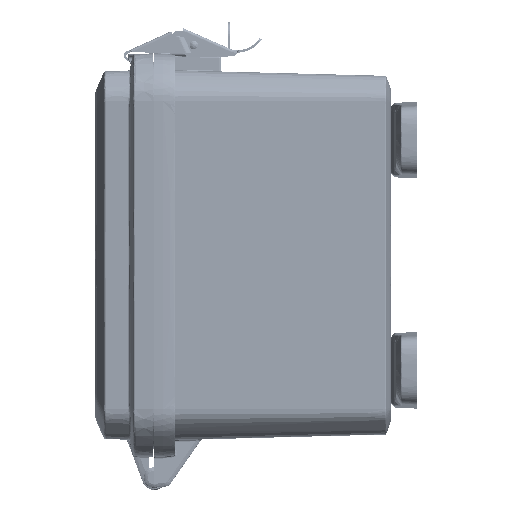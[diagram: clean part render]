
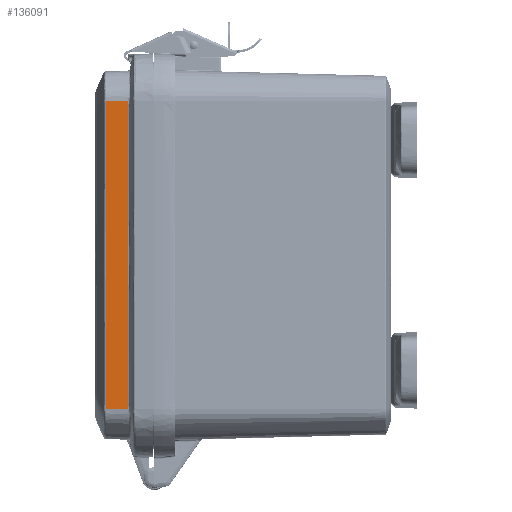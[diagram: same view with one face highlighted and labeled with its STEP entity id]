
A CAD part, left-side view. The second image highlights one B-rep face of the part: STEP entity #136091.
In plain terms, the highlighted planar face has unit normal (-0.999, 0.035, 0).
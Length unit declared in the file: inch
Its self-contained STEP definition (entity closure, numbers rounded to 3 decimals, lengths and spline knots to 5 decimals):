
#550 = CARTESIAN_POINT ( 'NONE',  ( -3.625, 0., 3.00844 ) ) ;
#973 = CARTESIAN_POINT ( 'NONE',  ( -3.5929, 0.9192, 0. ) ) ;
#4080 = EDGE_CURVE ( 'NONE', #114502, #23944, #17487, .T. ) ;
#5038 = CARTESIAN_POINT ( 'NONE',  ( -3.5929, 0.9192, 0. ) ) ;
#5466 = VERTEX_POINT ( 'NONE', #66440 ) ;
#6608 = EDGE_CURVE ( 'NONE', #23944, #24179, #19356, .T. ) ;
#6927 = CARTESIAN_POINT ( 'NONE',  ( -3.60805, 0.48528, -2.38176 ) ) ;
#7716 = CARTESIAN_POINT ( 'NONE',  ( -3.5929, 0.91934, -2.94577 ) ) ;
#7988 = CARTESIAN_POINT ( 'NONE',  ( -3.60804, 0.48557, -2.88318 ) ) ;
#12997 = CARTESIAN_POINT ( 'NONE',  ( -3.5929, 0.91934, 2.94577 ) ) ;
#15185 = CARTESIAN_POINT ( 'NONE',  ( -3.60805, 0.4853, 2.75774 ) ) ;
#16201 = CARTESIAN_POINT ( 'NONE',  ( -3.5929, 0.91921, 0.50141 ) ) ;
#17279 = CARTESIAN_POINT ( 'NONE',  ( -3.5929, 0.91918, 1.00281 ) ) ;
#17487 = B_SPLINE_CURVE_WITH_KNOTS ( 'NONE', 3,
 ( #65089, #149640, #131234, #12997, #196330, #181134, #130158, #164851, #162743, #32479, #198452, #17279, #16201, #973 ),
 .UNSPECIFIED., .F., .F.,
 ( 4, 2, 1, 1, 2, 2, 2, 4 ),
 ( 0., 0.00119, 0.00239, 0.00478, 0.00955, 0.0191, 0.03821, 0.07641 ),
 .UNSPECIFIED. ) ;
#19356 = B_SPLINE_CURVE_WITH_KNOTS ( 'NONE', 3,
 ( #56609, #72873, #57658, #89182, #55559, #188939, #121703, #157455, #91311, #187875, #7716, #155327, #139078, #205214 ),
 .UNSPECIFIED., .F., .F.,
 ( 4, 2, 2, 2, 1, 1, 2, 4 ),
 ( 0., 0.03821, 0.05731, 0.06686, 0.07164, 0.07403, 0.07522, 0.07641 ),
 .UNSPECIFIED. ) ;
#22183 = CARTESIAN_POINT ( 'NONE',  ( -3.60804, 0.48555, -2.00569 ) ) ;
#23944 = VERTEX_POINT ( 'NONE', #5038 ) ;
#24179 = VERTEX_POINT ( 'NONE', #110235 ) ;
#24314 = CARTESIAN_POINT ( 'NONE',  ( -3.60805, 0.48546, -1.75498 ) ) ;
#30012 = EDGE_CURVE ( 'NONE', #24179, #187665, #204359, .T. ) ;
#31331 = ORIENTED_EDGE ( 'NONE', *, *, #4080, .T. ) ;
#32479 = CARTESIAN_POINT ( 'NONE',  ( -3.5929, 0.91933, 2.00563 ) ) ;
#37031 = ORIENTED_EDGE ( 'NONE', *, *, #128762, .T. ) ;
#37545 = VECTOR ( 'NONE', #118705, 39.37008 ) ;
#38449 = CARTESIAN_POINT ( 'NONE',  ( -3.60804, 0.48557, -2.89885 ) ) ;
#39512 = CARTESIAN_POINT ( 'NONE',  ( -3.60819, 0.48144, -3.00844 ) ) ;
#49650 = FACE_OUTER_BOUND ( 'NONE', #73900, .T. ) ;
#55559 = CARTESIAN_POINT ( 'NONE',  ( -3.5929, 0.91933, -2.00563 ) ) ;
#56609 = CARTESIAN_POINT ( 'NONE',  ( -3.5929, 0.9192, 0. ) ) ;
#57658 = CARTESIAN_POINT ( 'NONE',  ( -3.5929, 0.91918, -1.00281 ) ) ;
#60091 = CARTESIAN_POINT ( 'NONE',  ( -3.60805, 0.4854, 0. ) ) ;
#61171 = CARTESIAN_POINT ( 'NONE',  ( -3.60805, 0.48541, -0.50142 ) ) ;
#65089 = CARTESIAN_POINT ( 'NONE',  ( -3.59291, 0.91908, 3.00844 ) ) ;
#65149 = CARTESIAN_POINT ( 'NONE',  ( -3.60805, 0.48545, 1.75493 ) ) ;
#66440 = CARTESIAN_POINT ( 'NONE',  ( -3.60819, 0.48144, 3.00844 ) ) ;
#68316 = CARTESIAN_POINT ( 'NONE',  ( -3.60805, 0.4854, 0. ) ) ;
#72873 = CARTESIAN_POINT ( 'NONE',  ( -3.5929, 0.91921, -0.50141 ) ) ;
#73900 = EDGE_LOOP ( 'NONE', ( #31331, #110243, #168956, #37031, #90483, #214367 ) ) ;
#86496 = PLANE ( 'NONE',  #115820 ) ;
#87552 = DIRECTION ( 'NONE',  ( -0.035, -0.999, 0. ) ) ;
#88071 = B_SPLINE_CURVE_WITH_KNOTS ( 'NONE', 3,
 ( #68316, #180134, #97680, #65149, #163857, #184412, #200672, #168110, #15185, #147575, #118225, #213745, #114995, #116064, #99799, #181194 ),
 .UNSPECIFIED., .F., .F.,
 ( 4, 2, 2, 2, 2, 2, 2, 4 ),
 ( 0., 0.03821, 0.05731, 0.06686, 0.07164, 0.07283, 0.07403, 0.07641 ),
 .UNSPECIFIED. ) ;
#89182 = CARTESIAN_POINT ( 'NONE',  ( -3.5929, 0.91927, -1.75492 ) ) ;
#89461 = CARTESIAN_POINT ( 'NONE',  ( -3.60805, 0.48549, -2.85184 ) ) ;
#90483 = ORIENTED_EDGE ( 'NONE', *, *, #162811, .T. ) ;
#91311 = CARTESIAN_POINT ( 'NONE',  ( -3.5929, 0.91923, -2.78908 ) ) ;
#97680 = CARTESIAN_POINT ( 'NONE',  ( -3.60805, 0.48531, 1.00282 ) ) ;
#99799 = CARTESIAN_POINT ( 'NONE',  ( -3.60812, 0.48344, 2.97711 ) ) ;
#101650 = DIRECTION ( 'NONE',  ( -0.999, 0.035, 0. ) ) ;
#104576 = VERTEX_POINT ( 'NONE', #160887 ) ;
#104625 = CARTESIAN_POINT ( 'NONE',  ( -3.60806, 0.48524, -2.69514 ) ) ;
#105823 = CARTESIAN_POINT ( 'NONE',  ( -3.59291, 0.91908, 3.00844 ) ) ;
#110235 = CARTESIAN_POINT ( 'NONE',  ( -3.59291, 0.91908, -3.00844 ) ) ;
#110243 = ORIENTED_EDGE ( 'NONE', *, *, #6608, .T. ) ;
#114502 = VERTEX_POINT ( 'NONE', #105823 ) ;
#114995 = CARTESIAN_POINT ( 'NONE',  ( -3.60804, 0.48558, 2.89876 ) ) ;
#115820 = AXIS2_PLACEMENT_3D ( 'NONE', #133145, #101650, #87552 ) ;
#116064 = CARTESIAN_POINT ( 'NONE',  ( -3.60807, 0.48478, 2.94577 ) ) ;
#118225 = CARTESIAN_POINT ( 'NONE',  ( -3.60805, 0.48549, 2.85176 ) ) ;
#118705 = DIRECTION ( 'NONE',  ( -0.035, -0.999, 0. ) ) ;
#120038 = VECTOR ( 'NONE', #195896, 39.37008 ) ;
#120501 = EDGE_CURVE ( 'NONE', #114502, #5466, #147084, .T. ) ;
#121703 = CARTESIAN_POINT ( 'NONE',  ( -3.5929, 0.91922, -2.50704 ) ) ;
#123039 = CARTESIAN_POINT ( 'NONE',  ( -3.60807, 0.48478, -2.94585 ) ) ;
#128762 = EDGE_CURVE ( 'NONE', #187665, #104576, #143565, .T. ) ;
#130158 = CARTESIAN_POINT ( 'NONE',  ( -3.5929, 0.91922, 2.69506 ) ) ;
#131234 = CARTESIAN_POINT ( 'NONE',  ( -3.5929, 0.91937, 2.9771 ) ) ;
#133145 = CARTESIAN_POINT ( 'NONE',  ( -3.625, 0., -3.00844 ) ) ;
#134995 = CARTESIAN_POINT ( 'NONE',  ( -3.625, 0., -3.00844 ) ) ;
#136091 = ADVANCED_FACE ( 'NONE', ( #49650 ), #86496, .T. ) ;
#137209 = CARTESIAN_POINT ( 'NONE',  ( -3.60812, 0.48344, -2.97716 ) ) ;
#139078 = CARTESIAN_POINT ( 'NONE',  ( -3.59289, 0.91948, -2.99277 ) ) ;
#143565 = B_SPLINE_CURVE_WITH_KNOTS ( 'NONE', 3,
 ( #39512, #137209, #123039, #38449, #7988, #89461, #203374, #155611, #104625, #170831, #6927, #22183, #24314, #156662, #61171, #60091 ),
 .UNSPECIFIED., .F., .F.,
 ( 4, 2, 2, 2, 2, 2, 2, 4 ),
 ( 0., 0.00239, 0.00358, 0.00478, 0.00955, 0.0191, 0.03821, 0.07641 ),
 .UNSPECIFIED. ) ;
#147084 = LINE ( 'NONE', #550, #120038 ) ;
#147575 = CARTESIAN_POINT ( 'NONE',  ( -3.60805, 0.48546, 2.83609 ) ) ;
#149640 = CARTESIAN_POINT ( 'NONE',  ( -3.59289, 0.91948, 2.99277 ) ) ;
#155327 = CARTESIAN_POINT ( 'NONE',  ( -3.5929, 0.91937, -2.9771 ) ) ;
#155611 = CARTESIAN_POINT ( 'NONE',  ( -3.60805, 0.4853, -2.75782 ) ) ;
#155827 = CARTESIAN_POINT ( 'NONE',  ( -3.60819, 0.48144, -3.00844 ) ) ;
#156662 = CARTESIAN_POINT ( 'NONE',  ( -3.60805, 0.48531, -1.00284 ) ) ;
#157455 = CARTESIAN_POINT ( 'NONE',  ( -3.5929, 0.91922, -2.69506 ) ) ;
#160887 = CARTESIAN_POINT ( 'NONE',  ( -3.60805, 0.4854, 0. ) ) ;
#162743 = CARTESIAN_POINT ( 'NONE',  ( -3.5929, 0.91927, 2.38168 ) ) ;
#162811 = EDGE_CURVE ( 'NONE', #104576, #5466, #88071, .T. ) ;
#163857 = CARTESIAN_POINT ( 'NONE',  ( -3.60804, 0.48555, 2.00563 ) ) ;
#164851 = CARTESIAN_POINT ( 'NONE',  ( -3.5929, 0.91922, 2.50704 ) ) ;
#168110 = CARTESIAN_POINT ( 'NONE',  ( -3.60806, 0.48524, 2.69507 ) ) ;
#168956 = ORIENTED_EDGE ( 'NONE', *, *, #30012, .T. ) ;
#170831 = CARTESIAN_POINT ( 'NONE',  ( -3.60806, 0.48517, -2.50711 ) ) ;
#180134 = CARTESIAN_POINT ( 'NONE',  ( -3.60805, 0.48541, 0.50141 ) ) ;
#181134 = CARTESIAN_POINT ( 'NONE',  ( -3.5929, 0.91923, 2.78908 ) ) ;
#181194 = CARTESIAN_POINT ( 'NONE',  ( -3.60819, 0.48144, 3.00844 ) ) ;
#184412 = CARTESIAN_POINT ( 'NONE',  ( -3.60805, 0.48528, 2.38169 ) ) ;
#187665 = VERTEX_POINT ( 'NONE', #155827 ) ;
#187875 = CARTESIAN_POINT ( 'NONE',  ( -3.5929, 0.9193, -2.89876 ) ) ;
#188939 = CARTESIAN_POINT ( 'NONE',  ( -3.5929, 0.91927, -2.38168 ) ) ;
#195896 = DIRECTION ( 'NONE',  ( -0.035, -0.999, 0. ) ) ;
#196330 = CARTESIAN_POINT ( 'NONE',  ( -3.5929, 0.9193, 2.89876 ) ) ;
#198452 = CARTESIAN_POINT ( 'NONE',  ( -3.5929, 0.91927, 1.75492 ) ) ;
#200672 = CARTESIAN_POINT ( 'NONE',  ( -3.60806, 0.48517, 2.50704 ) ) ;
#203374 = CARTESIAN_POINT ( 'NONE',  ( -3.60805, 0.48546, -2.83617 ) ) ;
#204359 = LINE ( 'NONE', #134995, #37545 ) ;
#205214 = CARTESIAN_POINT ( 'NONE',  ( -3.59291, 0.91908, -3.00844 ) ) ;
#213745 = CARTESIAN_POINT ( 'NONE',  ( -3.60804, 0.48557, 2.8831 ) ) ;
#214367 = ORIENTED_EDGE ( 'NONE', *, *, #120501, .F. ) ;
